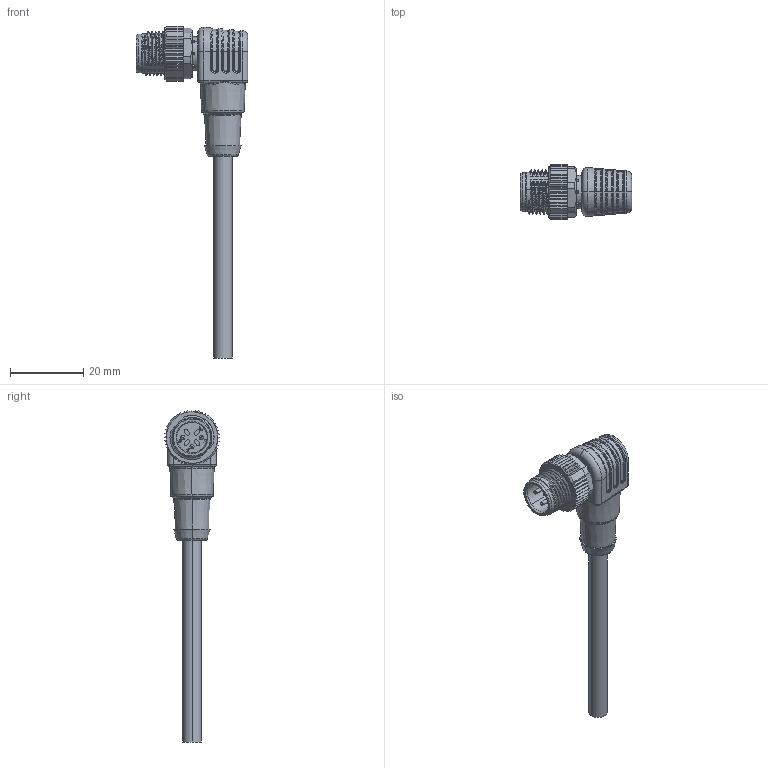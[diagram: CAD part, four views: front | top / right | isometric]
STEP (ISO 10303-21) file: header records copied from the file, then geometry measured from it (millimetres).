
FILE_DESCRIPTION (( 'STEP AP203' ), '1' );
FILE_NAME ('M12 3Õë A Íä¹«30.4.STEP', '2024-12-09T07:42:22', ( 'L' ), ( '' ), 'SwSTEP 2.0', 'SolidWorks 2019', '' );
FILE_SCHEMA (( 'CONFIG_CONTROL_DESIGN' ));
Length unit declared in the file: millimetre
Products named in the file (1): M12 3渀 A 俔鼠30.4
Bounding box: 30.4 x 15 x 90.45 mm (x, y, z)
Volume: 6492.8 mm3; surface area: 4701.5 mm2
Topology: 1 solids, 1 shells, 1065 faces, 3094 edges, 2017 vertices
Faces by surface type: plane 488, cylinder 250, cone 158, bspline 104, torus 65
Entity records: 51841 total; most frequent: CARTESIAN_POINT 25816, ORIENTED_EDGE 6186, DIRECTION 4450, EDGE_CURVE 3093, VERTEX_POINT 2017, AXIS2_PLACEMENT_3D 1549, LINE 1352, VECTOR 1352
